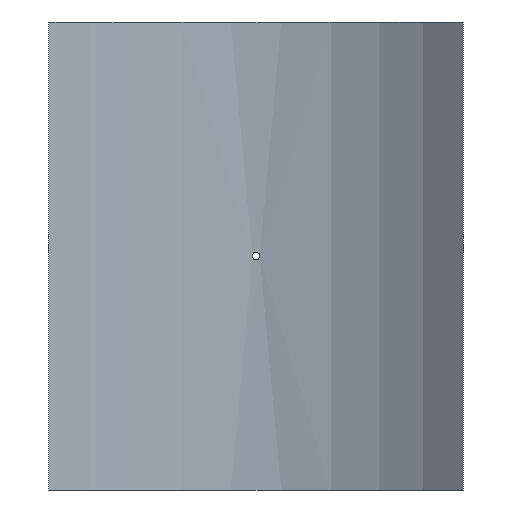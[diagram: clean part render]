
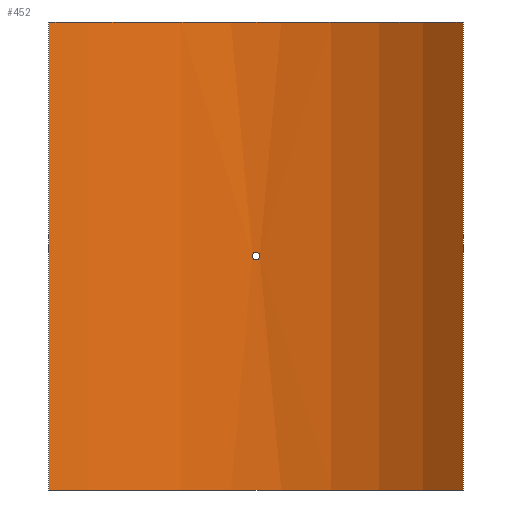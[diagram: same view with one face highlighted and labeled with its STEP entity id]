
A CAD part, front view. The second image highlights one B-rep face of the part: STEP entity #452.
In plain terms, the highlighted cylindrical face has radius 400 mm (diameter 800 mm), a partial arc.
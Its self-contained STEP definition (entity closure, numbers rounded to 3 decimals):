
#19=B_SPLINE_CURVE_WITH_KNOTS('',3,(#788,#789,#790,#791,#792,#793,#794,
#795,#796,#797,#798,#799,#800,#801,#802,#803,#804,#805,#806,#807,#808,#809,
#810,#811,#812,#813,#814,#815,#816,#817,#818,#819,#820,#821),
 .UNSPECIFIED.,.T.,.F.,(4,2,2,2,2,2,2,2,2,2,2,2,2,2,2,2,4),(0.,0.181,
0.362,0.542,0.723,0.904,1.085,
1.266,1.446,1.627,1.808,1.989,
2.17,2.351,2.531,2.712,2.893),
 .UNSPECIFIED.);
#43=LINE('',#1097,#62);
#44=LINE('',#1100,#63);
#62=VECTOR('',#661,10.);
#63=VECTOR('',#664,10.);
#76=CYLINDRICAL_SURFACE('',#530,400.);
#88=FACE_BOUND('',#167,.T.);
#127=FACE_OUTER_BOUND('',#166,.T.);
#166=EDGE_LOOP('',(#405,#406,#407,#408));
#167=EDGE_LOOP('',(#409));
#201=CIRCLE('',#529,400.);
#202=CIRCLE('',#531,400.);
#219=VERTEX_POINT('',#786);
#242=VERTEX_POINT('',#1090);
#243=VERTEX_POINT('',#1092);
#244=VERTEX_POINT('',#1096);
#245=VERTEX_POINT('',#1098);
#267=EDGE_CURVE('',#219,#219,#19,.T.);
#299=EDGE_CURVE('',#242,#243,#201,.T.);
#301=EDGE_CURVE('',#244,#242,#43,.T.);
#302=EDGE_CURVE('',#245,#244,#202,.T.);
#303=EDGE_CURVE('',#245,#243,#44,.T.);
#405=ORIENTED_EDGE('',*,*,#301,.F.);
#406=ORIENTED_EDGE('',*,*,#302,.F.);
#407=ORIENTED_EDGE('',*,*,#303,.T.);
#408=ORIENTED_EDGE('',*,*,#299,.F.);
#409=ORIENTED_EDGE('',*,*,#267,.T.);
#452=ADVANCED_FACE('',(#127,#88),#76,.F.);
#529=AXIS2_PLACEMENT_3D('',#1093,#656,#657);
#530=AXIS2_PLACEMENT_3D('',#1095,#659,#660);
#531=AXIS2_PLACEMENT_3D('',#1099,#662,#663);
#656=DIRECTION('center_axis',(0.,0.,1.));
#657=DIRECTION('ref_axis',(0.675,0.738,0.));
#659=DIRECTION('center_axis',(0.,0.,1.));
#660=DIRECTION('ref_axis',(0.675,0.738,0.));
#661=DIRECTION('',(0.,0.,-1.));
#662=DIRECTION('center_axis',(0.,0.,-1.));
#663=DIRECTION('ref_axis',(0.675,0.738,0.));
#664=DIRECTION('',(0.,0.,-1.));
#786=CARTESIAN_POINT('',(4.8,399.971,0.));
#788=CARTESIAN_POINT('Ctrl Pts',(4.8,399.971,0.));
#789=CARTESIAN_POINT('Ctrl Pts',(4.8,399.971,-0.603));
#790=CARTESIAN_POINT('Ctrl Pts',(4.68,399.973,-1.246));
#791=CARTESIAN_POINT('Ctrl Pts',(4.19,399.978,-2.428));
#792=CARTESIAN_POINT('Ctrl Pts',(3.82,399.982,-2.968));
#793=CARTESIAN_POINT('Ctrl Pts',(2.968,399.989,-3.82));
#794=CARTESIAN_POINT('Ctrl Pts',(2.428,399.993,-4.19));
#795=CARTESIAN_POINT('Ctrl Pts',(1.246,399.998,-4.68));
#796=CARTESIAN_POINT('Ctrl Pts',(0.603,400.,-4.8));
#797=CARTESIAN_POINT('Ctrl Pts',(-0.603,400.,-4.8));
#798=CARTESIAN_POINT('Ctrl Pts',(-1.246,399.998,-4.68));
#799=CARTESIAN_POINT('Ctrl Pts',(-2.428,399.993,-4.19));
#800=CARTESIAN_POINT('Ctrl Pts',(-2.968,399.989,-3.82));
#801=CARTESIAN_POINT('Ctrl Pts',(-3.82,399.982,-2.968));
#802=CARTESIAN_POINT('Ctrl Pts',(-4.19,399.978,-2.428));
#803=CARTESIAN_POINT('Ctrl Pts',(-4.68,399.973,-1.246));
#804=CARTESIAN_POINT('Ctrl Pts',(-4.8,399.971,-0.603));
#805=CARTESIAN_POINT('Ctrl Pts',(-4.8,399.971,0.603));
#806=CARTESIAN_POINT('Ctrl Pts',(-4.68,399.973,1.246));
#807=CARTESIAN_POINT('Ctrl Pts',(-4.19,399.978,2.428));
#808=CARTESIAN_POINT('Ctrl Pts',(-3.82,399.982,2.968));
#809=CARTESIAN_POINT('Ctrl Pts',(-2.968,399.989,3.82));
#810=CARTESIAN_POINT('Ctrl Pts',(-2.428,399.993,4.19));
#811=CARTESIAN_POINT('Ctrl Pts',(-1.246,399.998,4.68));
#812=CARTESIAN_POINT('Ctrl Pts',(-0.603,400.,4.8));
#813=CARTESIAN_POINT('Ctrl Pts',(0.603,400.,4.8));
#814=CARTESIAN_POINT('Ctrl Pts',(1.246,399.998,4.68));
#815=CARTESIAN_POINT('Ctrl Pts',(2.428,399.993,4.19));
#816=CARTESIAN_POINT('Ctrl Pts',(2.968,399.989,3.82));
#817=CARTESIAN_POINT('Ctrl Pts',(3.82,399.982,2.968));
#818=CARTESIAN_POINT('Ctrl Pts',(4.19,399.978,2.428));
#819=CARTESIAN_POINT('Ctrl Pts',(4.68,399.973,1.246));
#820=CARTESIAN_POINT('Ctrl Pts',(4.8,399.971,0.603));
#821=CARTESIAN_POINT('Ctrl Pts',(4.8,399.971,0.));
#1090=CARTESIAN_POINT('',(270.,295.127,-305.));
#1092=CARTESIAN_POINT('',(-270.,295.127,-305.));
#1093=CARTESIAN_POINT('Origin',(0.,0.,
-305.));
#1095=CARTESIAN_POINT('Origin',(0.,0.,
0.));
#1096=CARTESIAN_POINT('',(270.,295.127,305.));
#1097=CARTESIAN_POINT('',(270.,295.127,0.));
#1098=CARTESIAN_POINT('',(-270.,295.127,305.));
#1099=CARTESIAN_POINT('Origin',(0.,0.,
305.));
#1100=CARTESIAN_POINT('',(-270.,295.127,0.));
